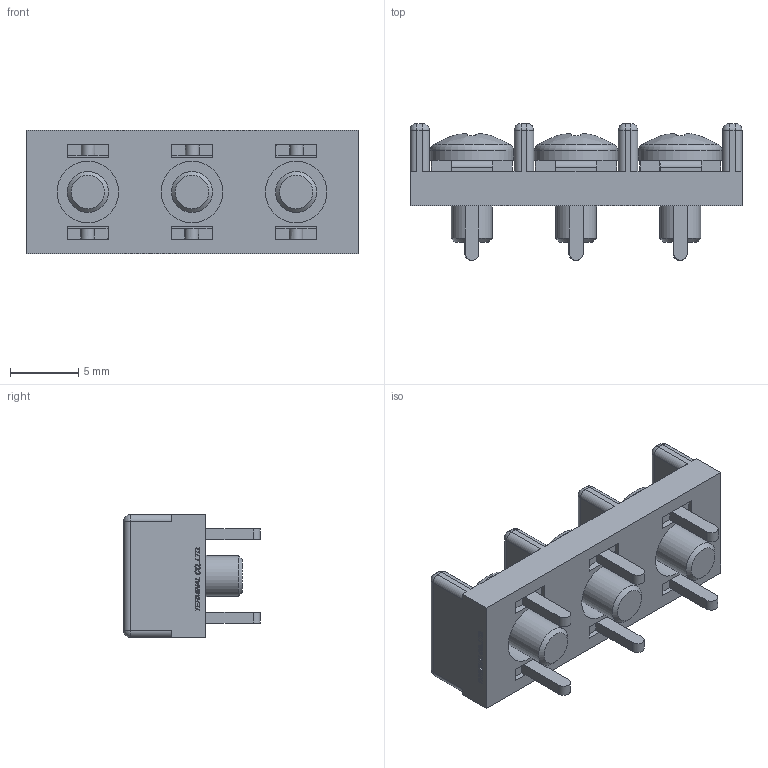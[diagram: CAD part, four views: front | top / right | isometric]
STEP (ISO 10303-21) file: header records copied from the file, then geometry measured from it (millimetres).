
FILE_DESCRIPTION(/* description */ ('Alibre Inc.'),/* implementation_level */ '2;1');
FILE_NAME(/* name */ 'export0',/* time_stamp */ '2015-11-28T15:39:22+09:00',/* author */ (''),/* organization */ (''),/* preprocessor_version */ 'ST-DEVELOPER v14',/* originating_system */ 'Alibre',/* authorisation */ '');
FILE_SCHEMA (('CONFIG_CONTROL_DESIGN'));
Length unit declared in the file: centimetre
Products named in the file (1): ID_1
Bounding box: 24.28 x 10 x 9 mm (x, y, z)
Volume: 919.5 mm3; surface area: 1694.2 mm2
Topology: 1 solids, 33 shells, 835 faces, 2167 edges, 1414 vertices
Faces by surface type: plane 586, bspline 156, cylinder 56, sphere 19, cone 15, torus 3
Full cylindrical faces by diameter (mm): 3 x6, 4.5 x3, 6.1 x3
Entity records: 24376 total; most frequent: CARTESIAN_POINT 5803, ORIENTED_EDGE 4254, DIRECTION 2681, EDGE_CURVE 2127, VECTOR 1585, LINE 1585, VERTEX_POINT 1408, EDGE_LOOP 913
